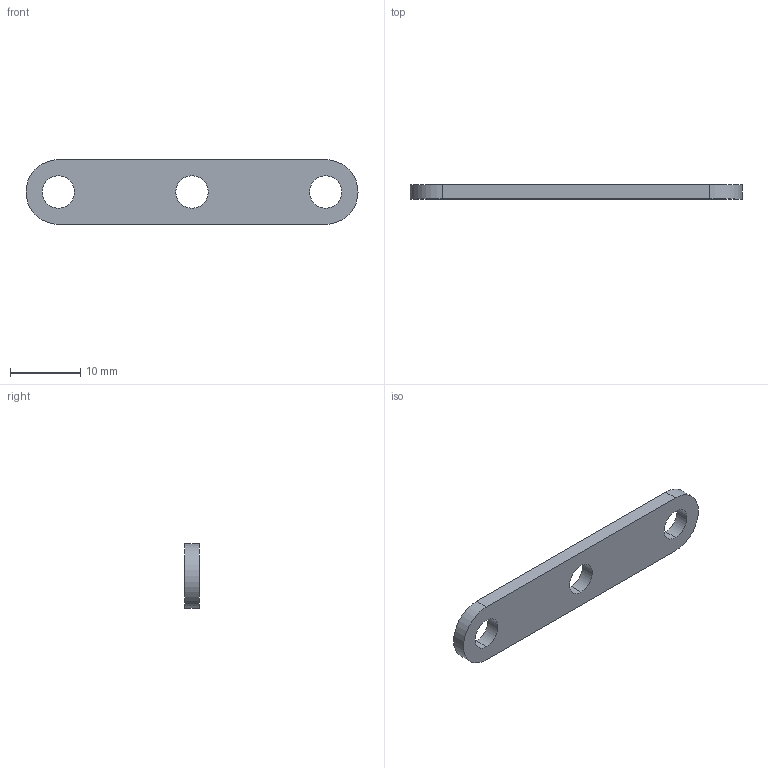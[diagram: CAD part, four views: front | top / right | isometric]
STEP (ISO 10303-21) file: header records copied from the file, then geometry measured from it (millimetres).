
FILE_DESCRIPTION (( 'STEP AP214' ), '1' );
FILE_NAME ('40mmtijera.STEP', '2025-06-15T00:44:21', ( '' ), ( '' ), 'SwSTEP 2.0', 'SolidWorks 2024', '' );
FILE_SCHEMA (( 'AUTOMOTIVE_DESIGN' ));
Length unit declared in the file: millimetre
Products named in the file (1): 40mmtijera
Bounding box: 47.2 x 2 x 9.2 mm (x, y, z)
Volume: 732.4 mm3; surface area: 1029 mm2
Topology: 1 solids, 1 shells, 12 faces, 30 edges, 20 vertices
Faces by surface type: cylinder 8, plane 4
Entity records: 405 total; most frequent: DIRECTION 72, CARTESIAN_POINT 63, ORIENTED_EDGE 60, EDGE_CURVE 30, AXIS2_PLACEMENT_3D 29, VERTEX_POINT 20, EDGE_LOOP 18, CIRCLE 16
